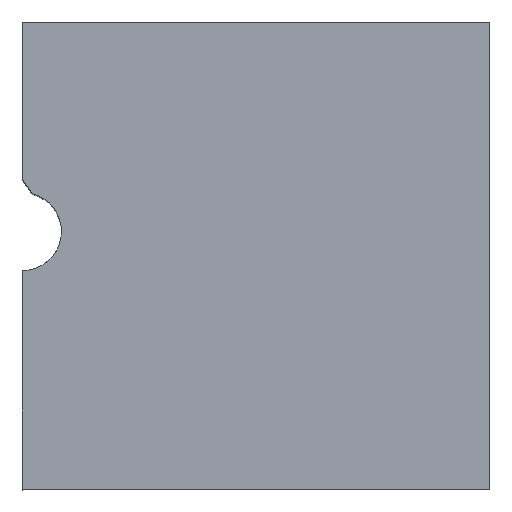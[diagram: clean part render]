
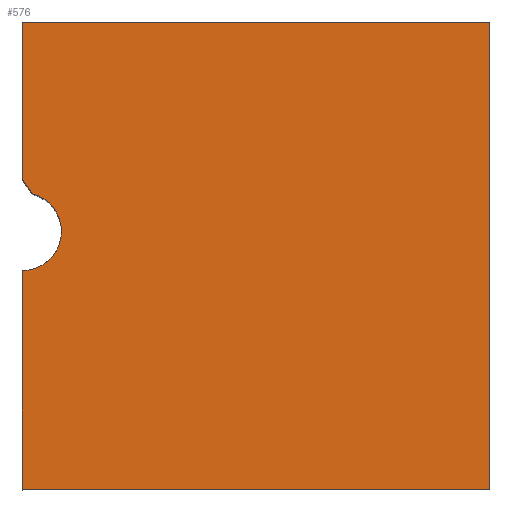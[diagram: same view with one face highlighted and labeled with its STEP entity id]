
A CAD part, top view. The second image highlights one B-rep face of the part: STEP entity #576.
In plain terms, the highlighted planar face has unit normal (0, 0, 1).
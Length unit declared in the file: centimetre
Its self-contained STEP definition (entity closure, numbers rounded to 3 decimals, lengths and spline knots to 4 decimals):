
#6 = DIRECTION ( 'NONE',  ( 0., 0., 1. ) ) ;
#17 = VERTEX_POINT ( 'NONE', #1001 ) ;
#21 = CARTESIAN_POINT ( 'NONE',  ( 0., 1000., 1000. ) ) ;
#57 = CARTESIAN_POINT ( 'NONE',  ( 31.3483, 618.0784, 1000. ) ) ;
#70 = DIRECTION ( 'NONE',  ( 1., 0., 0. ) ) ;
#112 = CARTESIAN_POINT ( 'NONE',  ( 0., 0., 1000. ) ) ;
#127 = ORIENTED_EDGE ( 'NONE', *, *, #679, .T. ) ;
#152 = AXIS2_PLACEMENT_3D ( 'NONE', #112, #6, #833 ) ;
#185 = DIRECTION ( 'NONE',  ( 1., 0., 0. ) ) ;
#190 = VERTEX_POINT ( 'NONE', #1145 ) ;
#203 = EDGE_CURVE ( 'NONE', #17, #190, #1166, .T. ) ;
#212 = CARTESIAN_POINT ( 'NONE',  ( 0., 1000., 1000. ) ) ;
#228 = VECTOR ( 'NONE', #286, 100. ) ;
#253 = LINE ( 'NONE', #563, #228 ) ;
#286 = DIRECTION ( 'NONE',  ( -1., 0., 0. ) ) ;
#294 = DIRECTION ( 'NONE',  ( 0., 0., 1. ) ) ;
#311 = VERTEX_POINT ( 'NONE', #1175 ) ;
#322 = VECTOR ( 'NONE', #1078, 100. ) ;
#388 = CIRCLE ( 'NONE', #1161, 83.5975 ) ;
#417 = LINE ( 'NONE', #21, #322 ) ;
#420 = EDGE_CURVE ( 'NONE', #311, #1043, #447, .T. ) ;
#436 = CARTESIAN_POINT ( 'NONE',  ( 0., 1000., 1000. ) ) ;
#441 = CARTESIAN_POINT ( 'NONE',  ( 0., 0., 1000. ) ) ;
#447 = CIRCLE ( 'NONE', #595, 83.5975 ) ;
#451 = ORIENTED_EDGE ( 'NONE', *, *, #1104, .T. ) ;
#468 = VECTOR ( 'NONE', #1365, 100. ) ;
#520 = LINE ( 'NONE', #436, #619 ) ;
#535 = EDGE_CURVE ( 'NONE', #958, #311, #388, .T. ) ;
#563 = CARTESIAN_POINT ( 'NONE',  ( 0., 1000., 1000. ) ) ;
#576 = ADVANCED_FACE ( 'NONE', ( #1046 ), #1367, .T. ) ;
#595 = AXIS2_PLACEMENT_3D ( 'NONE', #761, #911, #185 ) ;
#604 = CARTESIAN_POINT ( 'NONE',  ( 1000., 1000., 1000. ) ) ;
#616 = ORIENTED_EDGE ( 'NONE', *, *, #535, .F. ) ;
#619 = VECTOR ( 'NONE', #835, 100. ) ;
#648 = VECTOR ( 'NONE', #857, 100. ) ;
#658 = CARTESIAN_POINT ( 'NONE',  ( 0., 663.1673, 1000. ) ) ;
#679 = EDGE_CURVE ( 'NONE', #967, #1043, #997, .T. ) ;
#742 = CARTESIAN_POINT ( 'NONE',  ( 21.3678, 632.4335, 1000. ) ) ;
#761 = CARTESIAN_POINT ( 'NONE',  ( 0., 551.613, 1000. ) ) ;
#808 = CARTESIAN_POINT ( 'NONE',  ( 0., 551.613, 1000. ) ) ;
#811 = ORIENTED_EDGE ( 'NONE', *, *, #203, .T. ) ;
#833 = DIRECTION ( 'NONE',  ( 1., 0., 0. ) ) ;
#835 = DIRECTION ( 'NONE',  ( 0., -1., 0. ) ) ;
#842 = CARTESIAN_POINT ( 'NONE',  ( 0., 0., 1000. ) ) ;
#857 = DIRECTION ( 'NONE',  ( 1., 0., 0. ) ) ;
#859 = EDGE_CURVE ( 'NONE', #1073, #17, #939, .T. ) ;
#861 = ORIENTED_EDGE ( 'NONE', *, *, #1042, .T. ) ;
#883 = CARTESIAN_POINT ( 'NONE',  ( 0., 468.0155, 1000. ) ) ;
#906 = ORIENTED_EDGE ( 'NONE', *, *, #859, .T. ) ;
#911 = DIRECTION ( 'NONE',  ( 0., 0., 1. ) ) ;
#939 = LINE ( 'NONE', #441, #648 ) ;
#958 = VERTEX_POINT ( 'NONE', #883 ) ;
#967 = VERTEX_POINT ( 'NONE', #658 ) ;
#995 = EDGE_LOOP ( 'NONE', ( #616, #451, #906, #811, #1359, #861, #127, #1137 ) ) ;
#997 = LINE ( 'NONE', #57, #1167 ) ;
#1001 = CARTESIAN_POINT ( 'NONE',  ( 1000., 0., 1000. ) ) ;
#1015 = VERTEX_POINT ( 'NONE', #212 ) ;
#1042 = EDGE_CURVE ( 'NONE', #1015, #967, #520, .T. ) ;
#1043 = VERTEX_POINT ( 'NONE', #742 ) ;
#1046 = FACE_OUTER_BOUND ( 'NONE', #995, .T. ) ;
#1073 = VERTEX_POINT ( 'NONE', #842 ) ;
#1078 = DIRECTION ( 'NONE',  ( 0., -1., 0. ) ) ;
#1104 = EDGE_CURVE ( 'NONE', #958, #1073, #417, .T. ) ;
#1137 = ORIENTED_EDGE ( 'NONE', *, *, #420, .F. ) ;
#1145 = CARTESIAN_POINT ( 'NONE',  ( 1000., 1000., 1000. ) ) ;
#1161 = AXIS2_PLACEMENT_3D ( 'NONE', #808, #294, #70 ) ;
#1166 = LINE ( 'NONE', #604, #468 ) ;
#1167 = VECTOR ( 'NONE', #1349, 100. ) ;
#1175 = CARTESIAN_POINT ( 'NONE',  ( 83.5975, 551.613, 1000. ) ) ;
#1282 = EDGE_CURVE ( 'NONE', #190, #1015, #253, .T. ) ;
#1349 = DIRECTION ( 'NONE',  ( 0.571, -0.821, 0. ) ) ;
#1359 = ORIENTED_EDGE ( 'NONE', *, *, #1282, .T. ) ;
#1365 = DIRECTION ( 'NONE',  ( 0., 1., 0. ) ) ;
#1367 = PLANE ( 'NONE',  #152 ) ;
